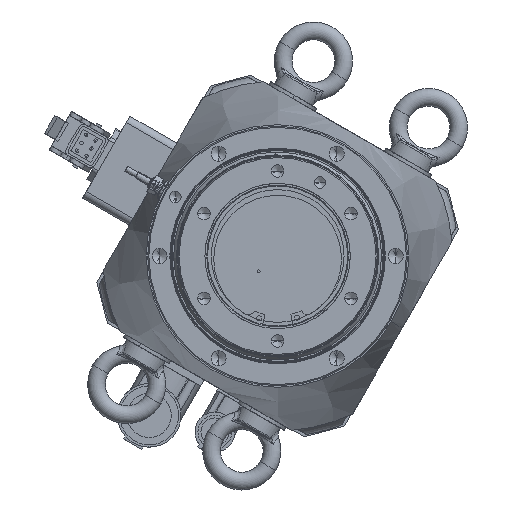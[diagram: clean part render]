
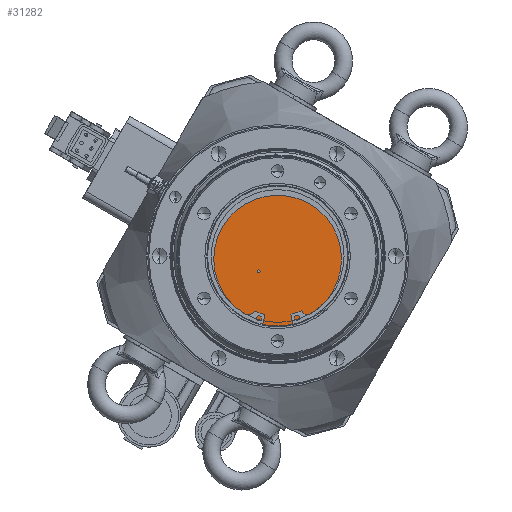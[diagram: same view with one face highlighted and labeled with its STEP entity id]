
A CAD part, front view. The second image highlights one B-rep face of the part: STEP entity #31282.
In plain terms, the highlighted planar face has unit normal (0, -1, 0).
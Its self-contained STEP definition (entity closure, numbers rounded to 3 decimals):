
#925 = CIRCLE ( 'NONE', #55677, 1. ) ;
#1315 = CIRCLE ( 'NONE', #36207, 47.5 ) ;
#2906 = CIRCLE ( 'NONE', #7603, 47.5 ) ;
#3317 = DIRECTION ( 'NONE',  ( -0.03, 0., 1. ) ) ;
#3660 = AXIS2_PLACEMENT_3D ( 'NONE', #46660, #36425, #3317 ) ;
#4869 = DIRECTION ( 'NONE',  ( -0.03, 0., 1. ) ) ;
#6640 = PLANE ( 'NONE',  #3660 ) ;
#7603 = AXIS2_PLACEMENT_3D ( 'NONE', #60520, #65309, #49944 ) ;
#8484 = DIRECTION ( 'NONE',  ( 0., 1., 0. ) ) ;
#18741 = EDGE_LOOP ( 'NONE', ( #26186, #19950 ) ) ;
#19950 = ORIENTED_EDGE ( 'NONE', *, *, #42894, .F. ) ;
#21899 = ORIENTED_EDGE ( 'NONE', *, *, #44926, .T. ) ;
#25031 = VERTEX_POINT ( 'NONE', #69982 ) ;
#26186 = ORIENTED_EDGE ( 'NONE', *, *, #65817, .F. ) ;
#27193 = CIRCLE ( 'NONE', #28398, 1. ) ;
#28398 = AXIS2_PLACEMENT_3D ( 'NONE', #39879, #47481, #70176 ) ;
#31282 = ADVANCED_FACE ( 'NONE', ( #61326, #50361 ), #6640, .F. ) ;
#32657 = VERTEX_POINT ( 'NONE', #36990 ) ;
#33812 = VERTEX_POINT ( 'NONE', #54478 ) ;
#36021 = CARTESIAN_POINT ( 'NONE',  ( -12.633, -49.5, -11.379 ) ) ;
#36207 = AXIS2_PLACEMENT_3D ( 'NONE', #47086, #8484, #57996 ) ;
#36425 = DIRECTION ( 'NONE',  ( 0., 1., 0. ) ) ;
#36990 = CARTESIAN_POINT ( 'NONE',  ( -12.693, -49.5, -9.38 ) ) ;
#39879 = CARTESIAN_POINT ( 'NONE',  ( -12.663, -49.5, -10.379 ) ) ;
#40921 = EDGE_CURVE ( 'NONE', #45125, #32657, #925, .T. ) ;
#42894 = EDGE_CURVE ( 'NONE', #33812, #25031, #1315, .T. ) ;
#44926 = EDGE_CURVE ( 'NONE', #32657, #45125, #27193, .T. ) ;
#45125 = VERTEX_POINT ( 'NONE', #36021 ) ;
#46660 = CARTESIAN_POINT ( 'NONE',  ( 0., -49.5, 0. ) ) ;
#47086 = CARTESIAN_POINT ( 'NONE',  ( 0., -49.5, 0. ) ) ;
#47481 = DIRECTION ( 'NONE',  ( 0., 1., 0. ) ) ;
#49944 = DIRECTION ( 'NONE',  ( -0.03, 0., 1. ) ) ;
#50361 = FACE_BOUND ( 'NONE', #68755, .T. ) ;
#54429 = CARTESIAN_POINT ( 'NONE',  ( -12.663, -49.5, -10.379 ) ) ;
#54478 = CARTESIAN_POINT ( 'NONE',  ( -1.433, -49.5, 47.478 ) ) ;
#54795 = DIRECTION ( 'NONE',  ( 0., 1., 0. ) ) ;
#55677 = AXIS2_PLACEMENT_3D ( 'NONE', #54429, #54795, #4869 ) ;
#57996 = DIRECTION ( 'NONE',  ( -0.03, 0., 1. ) ) ;
#60520 = CARTESIAN_POINT ( 'NONE',  ( 0., -49.5, 0. ) ) ;
#60577 = ORIENTED_EDGE ( 'NONE', *, *, #40921, .T. ) ;
#61326 = FACE_OUTER_BOUND ( 'NONE', #18741, .T. ) ;
#65309 = DIRECTION ( 'NONE',  ( 0., 1., 0. ) ) ;
#65817 = EDGE_CURVE ( 'NONE', #25031, #33812, #2906, .T. ) ;
#68755 = EDGE_LOOP ( 'NONE', ( #60577, #21899 ) ) ;
#69982 = CARTESIAN_POINT ( 'NONE',  ( 1.433, -49.5, -47.478 ) ) ;
#70176 = DIRECTION ( 'NONE',  ( -0.03, 0., 1. ) ) ;
